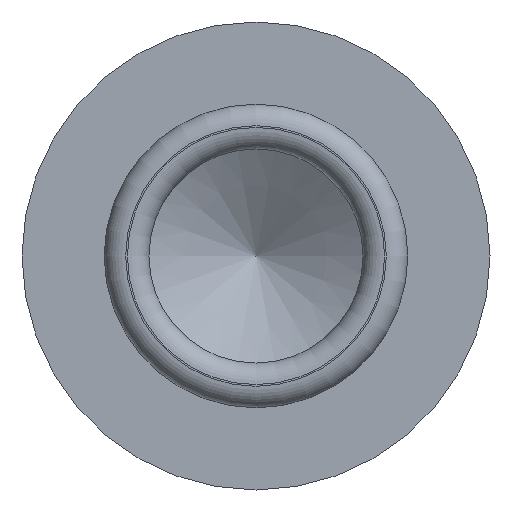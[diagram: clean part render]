
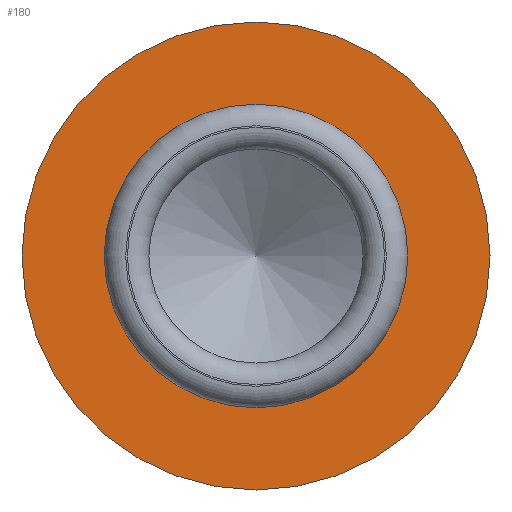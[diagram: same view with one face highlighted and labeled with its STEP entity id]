
A CAD part, left-side view. The second image highlights one B-rep face of the part: STEP entity #180.
In plain terms, the highlighted planar face has unit normal (-1, 0, 0).
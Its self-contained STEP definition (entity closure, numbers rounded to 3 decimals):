
#23=PLANE($,#206);
#33=FACE_BOUND($,#72,.T.);
#51=FACE_OUTER_BOUND($,#71,.T.);
#71=EDGE_LOOP($,(#151));
#72=EDGE_LOOP($,(#152));
#97=CIRCLE($,#204,1.549);
#98=CIRCLE($,#207,2.388);
#113=VERTEX_POINT($,#311);
#114=VERTEX_POINT($,#315);
#129=EDGE_CURVE($,#113,#113,#97,.T.);
#130=EDGE_CURVE($,#114,#114,#98,.T.);
#151=ORIENTED_EDGE($,*,*,#130,.F.);
#152=ORIENTED_EDGE($,*,*,#129,.T.);
#180=ADVANCED_FACE($,(#51,#33),#23,.T.);
#204=AXIS2_PLACEMENT_3D($,#312,#249,#250);
#206=AXIS2_PLACEMENT_3D($,#314,#253,#254);
#207=AXIS2_PLACEMENT_3D($,#316,#255,#256);
#249=DIRECTION('center_axis',(1.,0.,0.));
#250=DIRECTION('ref_axis',(0.,1.,0.));
#253=DIRECTION('center_axis',(-1.,0.,0.));
#254=DIRECTION('ref_axis',(0.,0.,1.));
#255=DIRECTION('center_axis',(1.,0.,0.));
#256=DIRECTION('ref_axis',(0.,1.,0.));
#311=CARTESIAN_POINT('',(4.572,1.549,0.));
#312=CARTESIAN_POINT('Origin',(4.572,0.,0.));
#314=CARTESIAN_POINT('Origin',(4.572,1.969,0.));
#315=CARTESIAN_POINT('',(4.572,2.388,0.));
#316=CARTESIAN_POINT('Origin',(4.572,0.,0.));
